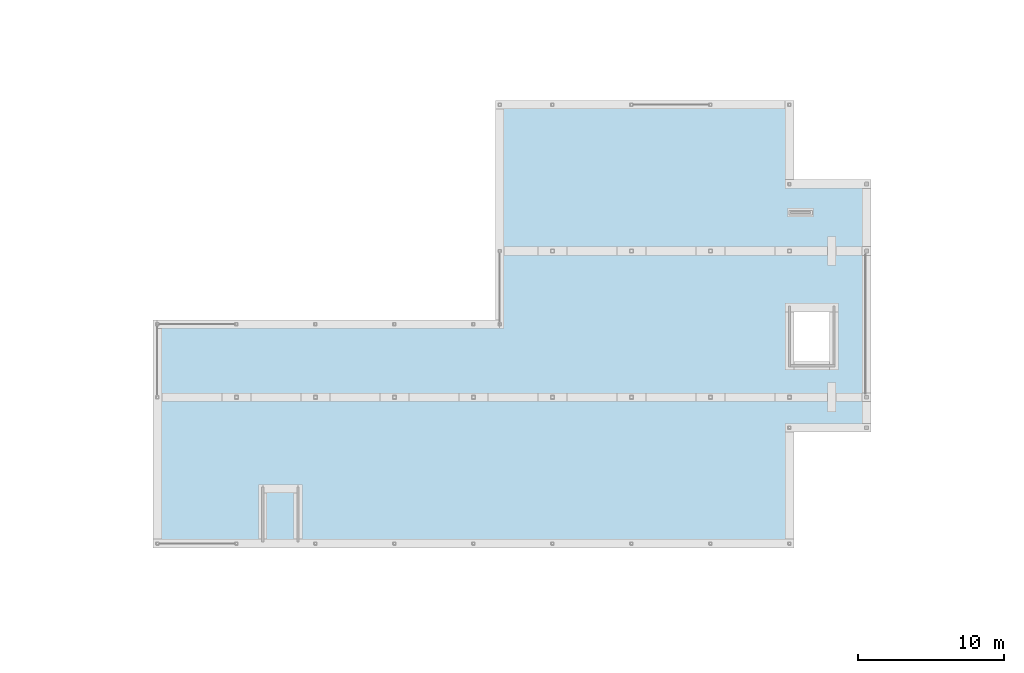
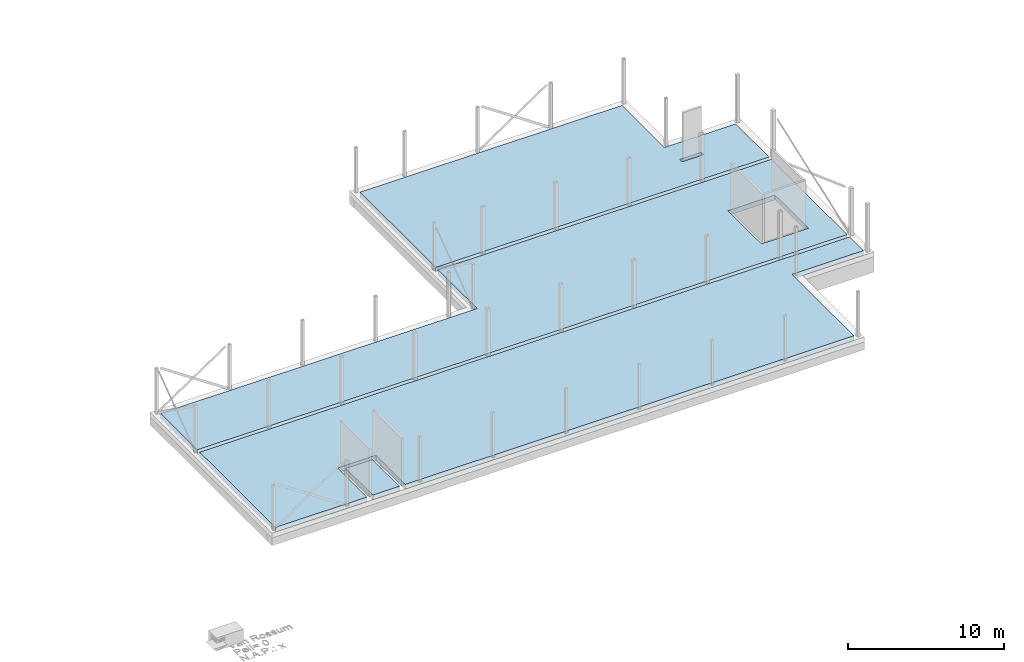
# One storey, part 8 of 12: 1 slab, 14 openings.
"""IFC2X3 building model written with IfcOpenShell, lengths in millimetres."""

from ifc_helpers import new_model, entity, si_unit, converted_unit, derived_unit, direction, frame, frame_2d, origin, place, context, subcontext, project, spatial, polyline, circle_curve, parameter, trimmed, segment, composite_curve, rectangle, outline, extrude, material, layer, layer_set, layer_usage, type_object, element, save


model = new_model("IFC2X3")

# Units and contexts
model_context = context("Model", 3, precision=0.01, world=origin(), true_north=direction((6.123031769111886e-17, 1.0)))
body_context = subcontext(model_context, "Body", "Model", "MODEL_VIEW")
ifc_project = project(units=[si_unit("LENGTHUNIT", "METRE", prefix="MILLI"), si_unit("AREAUNIT", "SQUARE_METRE"), si_unit("VOLUMEUNIT", "CUBIC_METRE"), converted_unit("PLANEANGLEUNIT", "DEGREE", entity("IfcPlaneAngleMeasure", 0.017453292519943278), si_unit("PLANEANGLEUNIT", "RADIAN"), dimensions=[0, 0, 0, 0, 0, 0, 0]), si_unit("MASSUNIT", "GRAM", prefix="KILO"), derived_unit("MASSDENSITYUNIT", [(si_unit("MASSUNIT", "GRAM", prefix="KILO"), 1), (si_unit("LENGTHUNIT", "METRE"), -3)]), derived_unit("IONCONCENTRATIONUNIT", [(si_unit("MASSUNIT", "GRAM", prefix="KILO"), 1), (si_unit("LENGTHUNIT", "METRE"), -3)]), derived_unit("MOMENTOFINERTIAUNIT", [(si_unit("LENGTHUNIT", "METRE"), 4)]), si_unit("TIMEUNIT", "SECOND"), si_unit("FREQUENCYUNIT", "HERTZ"), si_unit("THERMODYNAMICTEMPERATUREUNIT", "DEGREE_CELSIUS"), derived_unit("THERMALTRANSMITTANCEUNIT", [(si_unit("MASSUNIT", "GRAM", prefix="KILO"), 1), (si_unit("THERMODYNAMICTEMPERATUREUNIT", "KELVIN"), -1), (si_unit("TIMEUNIT", "SECOND"), -3)]), derived_unit("THERMALCONDUCTANCEUNIT", [(si_unit("MASSUNIT", "GRAM", prefix="KILO"), 1), (si_unit("THERMODYNAMICTEMPERATUREUNIT", "KELVIN"), -1), (si_unit("TIMEUNIT", "SECOND"), -3), (si_unit("LENGTHUNIT", "METRE"), 1)]), derived_unit("VOLUMETRICFLOWRATEUNIT", [(si_unit("LENGTHUNIT", "METRE", prefix="DECI"), 3), (si_unit("TIMEUNIT", "SECOND"), -1)]), derived_unit("MASSFLOWRATEUNIT", [(si_unit("MASSUNIT", "GRAM", prefix="KILO"), 1), (si_unit("TIMEUNIT", "SECOND"), -1)]), derived_unit("ROTATIONALFREQUENCYUNIT", [(si_unit("TIMEUNIT", "SECOND"), -1)]), si_unit("ELECTRICCURRENTUNIT", "AMPERE"), si_unit("ELECTRICVOLTAGEUNIT", "VOLT"), si_unit("POWERUNIT", "WATT"), si_unit("FORCEUNIT", "NEWTON", prefix="KILO"), si_unit("ILLUMINANCEUNIT", "LUX"), si_unit("LUMINOUSFLUXUNIT", "LUMEN"), si_unit("LUMINOUSINTENSITYUNIT", "CANDELA"), si_unit("ENERGYUNIT", "JOULE"), derived_unit("USERDEFINED", [(si_unit("MASSUNIT", "GRAM", prefix="KILO"), -1), (si_unit("LENGTHUNIT", "METRE"), -2), (si_unit("TIMEUNIT", "SECOND"), 3), (si_unit("LUMINOUSFLUXUNIT", "LUMEN"), 1)]), derived_unit("USERDEFINED", [(si_unit("MASSUNIT", "GRAM", prefix="KILO"), 1), (si_unit("TIMEUNIT", "SECOND"), -3), (si_unit("LENGTHUNIT", "METRE"), 3), (si_unit("ELECTRICCURRENTUNIT", "AMPERE"), -2)]), derived_unit("SOUNDPOWERUNIT", [(si_unit("MASSUNIT", "GRAM", prefix="KILO"), 1), (si_unit("TIMEUNIT", "SECOND"), -3), (si_unit("LENGTHUNIT", "METRE"), 2)]), derived_unit("SOUNDPRESSUREUNIT", [(si_unit("MASSUNIT", "GRAM", prefix="KILO"), 1), (si_unit("LENGTHUNIT", "METRE"), -1), (si_unit("TIMEUNIT", "SECOND"), -2)]), derived_unit("LINEARVELOCITYUNIT", [(si_unit("LENGTHUNIT", "METRE"), 1), (si_unit("TIMEUNIT", "SECOND"), -1)]), si_unit("PRESSUREUNIT", "PASCAL"), derived_unit("USERDEFINED", [(si_unit("MASSUNIT", "GRAM", prefix="KILO"), 1), (si_unit("LENGTHUNIT", "METRE"), -2), (si_unit("TIMEUNIT", "SECOND"), -2)]), derived_unit("LINEARFORCEUNIT", [(si_unit("MASSUNIT", "GRAM", prefix="KILO"), 1), (si_unit("TIMEUNIT", "SECOND"), -2)]), derived_unit("PLANARFORCEUNIT", [(si_unit("MASSUNIT", "GRAM", prefix="KILO"), 1), (si_unit("LENGTHUNIT", "METRE"), -1), (si_unit("TIMEUNIT", "SECOND"), -2)]), derived_unit("SPECIFICHEATCAPACITYUNIT", [(si_unit("THERMODYNAMICTEMPERATUREUNIT", "KELVIN"), -1), (si_unit("LENGTHUNIT", "METRE"), 2), (si_unit("TIMEUNIT", "SECOND"), -2)]), derived_unit("HEATFLUXDENSITYUNIT", [(si_unit("MASSUNIT", "GRAM", prefix="KILO"), 1), (si_unit("TIMEUNIT", "SECOND"), -3)]), derived_unit("HEATINGVALUEUNIT", [(si_unit("LENGTHUNIT", "METRE"), 2), (si_unit("TIMEUNIT", "SECOND"), -2)]), derived_unit("VAPORPERMEABILITYUNIT", [(si_unit("LENGTHUNIT", "METRE"), -1), (si_unit("TIMEUNIT", "SECOND"), 1)]), derived_unit("DYNAMICVISCOSITYUNIT", [(si_unit("MASSUNIT", "GRAM", prefix="KILO"), 1), (si_unit("TIMEUNIT", "SECOND"), -1), (si_unit("LENGTHUNIT", "METRE"), -1)]), derived_unit("THERMALEXPANSIONCOEFFICIENTUNIT", [(si_unit("THERMODYNAMICTEMPERATUREUNIT", "KELVIN"), -1)]), derived_unit("MODULUSOFELASTICITYUNIT", [(si_unit("MASSUNIT", "GRAM", prefix="KILO"), 1), (si_unit("LENGTHUNIT", "METRE"), -1), (si_unit("TIMEUNIT", "SECOND"), -2)]), derived_unit("ISOTHERMALMOISTURECAPACITYUNIT", [(si_unit("MASSUNIT", "GRAM", prefix="KILO"), -1), (si_unit("LENGTHUNIT", "METRE"), 3)]), derived_unit("MOISTUREDIFFUSIVITYUNIT", [(si_unit("TIMEUNIT", "SECOND"), -1), (si_unit("LENGTHUNIT", "METRE"), 2)]), derived_unit("MASSPERLENGTHUNIT", [(si_unit("MASSUNIT", "GRAM", prefix="KILO"), 1), (si_unit("LENGTHUNIT", "METRE"), -1)]), derived_unit("THERMALRESISTANCEUNIT", [(si_unit("MASSUNIT", "GRAM", prefix="KILO"), -1), (si_unit("TIMEUNIT", "SECOND"), 3), (si_unit("THERMODYNAMICTEMPERATUREUNIT", "KELVIN"), 1)]), derived_unit("ACCELERATIONUNIT", [(si_unit("LENGTHUNIT", "METRE"), 1), (si_unit("TIMEUNIT", "SECOND"), -2)]), derived_unit("ANGULARVELOCITYUNIT", [(si_unit("TIMEUNIT", "SECOND"), -1), (si_unit("PLANEANGLEUNIT", "RADIAN"), 1)]), derived_unit("LINEARSTIFFNESSUNIT", [(si_unit("MASSUNIT", "GRAM", prefix="KILO"), 1), (si_unit("TIMEUNIT", "SECOND"), -2)]), derived_unit("WARPINGCONSTANTUNIT", [(si_unit("LENGTHUNIT", "METRE"), 6)]), derived_unit("LINEARMOMENTUNIT", [(si_unit("MASSUNIT", "GRAM", prefix="KILO"), 1), (si_unit("LENGTHUNIT", "METRE"), 1), (si_unit("TIMEUNIT", "SECOND"), -2)]), derived_unit("TORQUEUNIT", [(si_unit("MASSUNIT", "GRAM", prefix="KILO"), 1), (si_unit("LENGTHUNIT", "METRE"), 2), (si_unit("TIMEUNIT", "SECOND"), -2)])], contexts=[model_context])

# Site, building, storey
site_placement = place(None, origin())
site = spatial("IfcSite", under=ifc_project, at=site_placement, Name="Default", CompositionType="ELEMENT")
building_placement = place(site_placement, origin())
building = spatial("IfcBuilding", under=site, at=building_placement, CompositionType="ELEMENT")
storey_placement = place(building_placement, origin())
storey = spatial("IfcBuildingStorey", under=building, at=storey_placement, Name="00 begane grond", CompositionType="ELEMENT", Elevation=0.0)

# Slab, openings
ifc_material_1 = material(Name="VRI_beton_kanaalplaat")
ifc_layer_1 = layer(ifc_material_1, 260.0)
ifc_material_2 = material(Name="VRI_isolatie")
ifc_layer_2 = layer(ifc_material_2, 120.0)
ifc_layer_set = layer_set([ifc_layer_1, ifc_layer_2], Name="Floor:23_FL_VRI_geïsoleerde_kanaalplaatvloer_260_Rc=....")
ifc_layer_usage = layer_usage(ifc_layer_set, "AXIS3", "POSITIVE", 0.0)
slab_type = type_object("IfcSlabType", Name="Floor:23_FL_VRI_geïsoleerde_kanaalplaatvloer_260_Rc=....", PredefinedType="FLOOR", material=ifc_layer_set)
slab_placement = place(storey_placement, origin())
slab = element("IfcSlab", 1, at=slab_placement, inside=storey, type_object=slab_type, material=ifc_layer_usage, Name="Floor:23_FL_VRI_geïsoleerde_kanaalplaatvloer_260_Rc=....", ObjectType="Floor:23_FL_VRI_geïsoleerde_kanaalplaatvloer_260_Rc=....", PredefinedType="FLOOR", context=body_context, shape_type="SweptSolid", body=[
    extrude(outline(polyline([(100.0, -23815.0), (4800.0, -23815.0), (4800.0, 24230.0), (-4900.0, 24230.0), (-4900.0, -415.0), (100.0, -415.0), (100.0, -23815.0)]), holes=[polyline([(2947.0, 22435.0), (2947.0, 18955.0), (-1330.0, 18955.0), (-1330.0, 22435.0), (2947.0, 22435.0)])]), frame((34030.0, 24950.0, -460.0), z_axis=(0.0, 0.0, 1.0), x_axis=(0.0, -1.0, 0.0)), (0.0, 0.0, 1.0), 379.99999999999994),
    extrude(rectangle(XDim=3676.9999999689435, YDim=2619.999999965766, at=frame_2d((-2.1600499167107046e-12, 4.320099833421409e-12), x_axis=(1.0, 0.0))), frame((54725.0, 24141.500000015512, -460.0), z_axis=(0.0, 0.0, 1.0), x_axis=(0.0, 1.0, 0.0)), (0.0, 0.0, 1.0), 379.99999999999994),
    extrude(outline(polyline([(-14671.666666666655, -4658.333333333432), (9973.333333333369, -4658.333333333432), (9973.333333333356, -383.33333333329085), (4698.33333333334, -383.33333333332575), (4698.333333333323, 5041.666666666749), (-14671.666666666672, 5041.666666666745), (-14671.666666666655, -4658.333333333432)]), holes=[polyline([(6483.333333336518, -2033.3333333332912), (6483.333333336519, -2333.3333333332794), (4873.333333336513, -2333.333333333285), (4873.333333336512, -2033.3333333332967), (6483.333333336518, -2033.3333333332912)])]), frame((48286.66666666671, 34808.33333333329, -460.0)), (0.0, 0.0, 1.0), 379.99999999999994),
    extrude(outline(polyline([(-4275.599999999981, 21333.0), (-4275.599999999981, -11837.0), (-522.600000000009, -11837.0), (-522.600000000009, -14667.0), (-4275.599999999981, -14667.0), (-4275.599999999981, -21437.0), (5424.400000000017, -21437.0), (5424.3999999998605, 26608.0), (3649.4000000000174, 26608.0), (3649.4000000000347, 21333.0), (-4275.599999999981, 21333.0)])), frame((31652.0, 14425.599999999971, -460.0), z_axis=(0.0, 0.0, -1.0), x_axis=(0.0, 1.0, 0.0)), (0.0, 0.0, -1.0), 379.99999999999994),
    extrude(rectangle(XDim=3452.999999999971, YDim=1969.9999999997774, at=frame_2d((-1.1368683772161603e-12, 0.0), x_axis=(1.0, 0.0))), frame((18400.0, 11876.499999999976, -460.0), z_axis=(0.0, 0.0, 1.0), x_axis=(0.0, 1.0, 0.0)), (0.0, 0.0, 1.0), 379.99999999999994),
])
opening_1_placement = place(slab_placement, origin())
element("IfcOpeningElement", 2, at=opening_1_placement, cuts=slab, Name="Floor:23_FL_VRI_geïsoleerde_kanaalplaatvloer_260_Rc=....", ObjectType="Opening", context=body_context, shape_type="SweptSolid", body=[
    extrude(outline(composite_curve([segment(polyline([(-113.0, -125.0), (113.0, -125.0)]), True, "CONTINUOUS"), segment(trimmed(circle_curve(frame_2d((113.0, -113.0), x_axis=(0.0, -1.0)), 12.0), [parameter(359.9999999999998)], [parameter(89.99999999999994)], True, "PARAMETER"), True, "CONTINUOUS"), segment(polyline([(125.0, -113.0), (125.0, 113.0)]), True, "CONTINUOUS"), segment(trimmed(circle_curve(frame_2d((113.0, 113.0), x_axis=(0.0, -1.0)), 12.0), [parameter(90.00000000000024)], [parameter(180.00000000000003)], True, "PARAMETER"), True, "CONTINUOUS"), segment(polyline([(113.0, 125.0), (-113.0, 125.0)]), True, "CONTINUOUS"), segment(trimmed(circle_curve(frame_2d((-113.0, 113.0), x_axis=(0.0, -1.0)), 12.0), [parameter(179.99999999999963)], [parameter(269.9999999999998)], True, "PARAMETER"), True, "CONTINUOUS"), segment(polyline([(-125.0, 113.0), (-125.0, -113.0)]), True, "CONTINUOUS"), segment(trimmed(circle_curve(frame_2d((-113.0, -113.0), x_axis=(0.0, -1.0)), 12.0), [parameter(270.00000000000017)], [parameter(1.0177774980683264e-13)], True, "PARAMETER"), True, "CONTINUOUS")], self_intersect=False)), frame((15400.0, 20000.0, -80.0), z_axis=(0.0, 0.0, 1.0), x_axis=(0.0, 1.0, 0.0)), (0.0, 0.0, 1.0), 3715.0),
])
opening_2_placement = place(slab_placement, origin())
element("IfcOpeningElement", 3, at=opening_2_placement, cuts=slab, Name="Floor:23_FL_VRI_geïsoleerde_kanaalplaatvloer_260_Rc=....", ObjectType="Opening", context=body_context, shape_type="SweptSolid", body=[
    extrude(outline(composite_curve([segment(polyline([(-113.0, -125.0), (113.0, -125.0)]), True, "CONTINUOUS"), segment(trimmed(circle_curve(frame_2d((113.0, -113.0), x_axis=(0.0, -1.0)), 12.0), [parameter(359.9999999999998)], [parameter(89.99999999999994)], True, "PARAMETER"), True, "CONTINUOUS"), segment(polyline([(125.0, -113.0), (125.0, 113.0)]), True, "CONTINUOUS"), segment(trimmed(circle_curve(frame_2d((113.0, 113.0), x_axis=(0.0, -1.0)), 12.0), [parameter(90.00000000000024)], [parameter(180.00000000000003)], True, "PARAMETER"), True, "CONTINUOUS"), segment(polyline([(113.0, 125.0), (-113.0, 125.0)]), True, "CONTINUOUS"), segment(trimmed(circle_curve(frame_2d((-113.0, 113.0), x_axis=(0.0, -1.0)), 12.0), [parameter(179.99999999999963)], [parameter(269.9999999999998)], True, "PARAMETER"), True, "CONTINUOUS"), segment(polyline([(-125.0, 113.0), (-125.0, -113.0)]), True, "CONTINUOUS"), segment(trimmed(circle_curve(frame_2d((-113.0, -113.0), x_axis=(0.0, -1.0)), 12.0), [parameter(270.00000000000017)], [parameter(1.0177774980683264e-13)], True, "PARAMETER"), True, "CONTINUOUS")], self_intersect=False)), frame((20800.0, 20000.0, -80.0), z_axis=(0.0, 0.0, 1.0), x_axis=(0.0, 1.0, 0.0)), (0.0, 0.0, 1.0), 3715.0),
])
opening_3_placement = place(slab_placement, origin())
element("IfcOpeningElement", 4, at=opening_3_placement, cuts=slab, Name="Floor:23_FL_VRI_geïsoleerde_kanaalplaatvloer_260_Rc=....", ObjectType="Opening", context=body_context, shape_type="SweptSolid", body=[
    extrude(outline(composite_curve([segment(polyline([(-113.0, -125.0), (113.0, -125.0)]), True, "CONTINUOUS"), segment(trimmed(circle_curve(frame_2d((113.0, -113.0), x_axis=(0.0, -1.0)), 12.0), [parameter(359.9999999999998)], [parameter(89.99999999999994)], True, "PARAMETER"), True, "CONTINUOUS"), segment(polyline([(125.0, -113.0), (125.0, 113.0)]), True, "CONTINUOUS"), segment(trimmed(circle_curve(frame_2d((113.0, 113.0), x_axis=(0.0, -1.0)), 12.0), [parameter(90.00000000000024)], [parameter(180.00000000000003)], True, "PARAMETER"), True, "CONTINUOUS"), segment(polyline([(113.0, 125.0), (-113.0, 125.0)]), True, "CONTINUOUS"), segment(trimmed(circle_curve(frame_2d((-113.0, 113.0), x_axis=(0.0, -1.0)), 12.0), [parameter(179.99999999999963)], [parameter(269.9999999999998)], True, "PARAMETER"), True, "CONTINUOUS"), segment(polyline([(-125.0, 113.0), (-125.0, -113.0)]), True, "CONTINUOUS"), segment(trimmed(circle_curve(frame_2d((-113.0, -113.0), x_axis=(0.0, -1.0)), 12.0), [parameter(270.00000000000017)], [parameter(1.0177774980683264e-13)], True, "PARAMETER"), True, "CONTINUOUS")], self_intersect=False)), frame((26200.0, 20000.0, -80.0), z_axis=(0.0, 0.0, 1.0), x_axis=(0.0, 1.0, 0.0)), (0.0, 0.0, 1.0), 3715.0),
])
opening_4_placement = place(slab_placement, origin())
element("IfcOpeningElement", 5, at=opening_4_placement, cuts=slab, Name="Floor:23_FL_VRI_geïsoleerde_kanaalplaatvloer_260_Rc=....", ObjectType="Opening", context=body_context, shape_type="SweptSolid", body=[
    extrude(outline(composite_curve([segment(polyline([(-113.0, -125.0), (113.0, -125.0)]), True, "CONTINUOUS"), segment(trimmed(circle_curve(frame_2d((113.0, -113.0), x_axis=(0.0, -1.0)), 12.0), [parameter(359.9999999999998)], [parameter(89.99999999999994)], True, "PARAMETER"), True, "CONTINUOUS"), segment(polyline([(125.0, -113.0), (125.0, 113.0)]), True, "CONTINUOUS"), segment(trimmed(circle_curve(frame_2d((113.0, 113.0), x_axis=(0.0, -1.0)), 12.0), [parameter(90.00000000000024)], [parameter(180.00000000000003)], True, "PARAMETER"), True, "CONTINUOUS"), segment(polyline([(113.0, 125.0), (-113.0, 125.0)]), True, "CONTINUOUS"), segment(trimmed(circle_curve(frame_2d((-113.0, 113.0), x_axis=(0.0, -1.0)), 12.0), [parameter(179.99999999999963)], [parameter(269.9999999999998)], True, "PARAMETER"), True, "CONTINUOUS"), segment(polyline([(-125.0, 113.0), (-125.0, -113.0)]), True, "CONTINUOUS"), segment(trimmed(circle_curve(frame_2d((-113.0, -113.0), x_axis=(0.0, -1.0)), 12.0), [parameter(270.00000000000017)], [parameter(1.0177774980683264e-13)], True, "PARAMETER"), True, "CONTINUOUS")], self_intersect=False)), frame((31600.0, 20000.0, -80.0), z_axis=(0.0, 0.0, 1.0), x_axis=(0.0, 1.0, 0.0)), (0.0, 0.0, 1.0), 3715.0),
])
opening_5_placement = place(slab_placement, origin())
element("IfcOpeningElement", 6, at=opening_5_placement, cuts=slab, Name="Floor:23_FL_VRI_geïsoleerde_kanaalplaatvloer_260_Rc=....", ObjectType="Opening", context=body_context, shape_type="SweptSolid", body=[
    extrude(outline(composite_curve([segment(polyline([(-113.0, -125.0), (113.0, -125.0)]), True, "CONTINUOUS"), segment(trimmed(circle_curve(frame_2d((113.0, -113.0), x_axis=(0.0, -1.0)), 12.0), [parameter(359.9999999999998)], [parameter(89.99999999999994)], True, "PARAMETER"), True, "CONTINUOUS"), segment(polyline([(125.0, -113.0), (125.0, 113.0)]), True, "CONTINUOUS"), segment(trimmed(circle_curve(frame_2d((113.0, 113.0), x_axis=(0.0, -1.0)), 12.0), [parameter(90.00000000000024)], [parameter(180.00000000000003)], True, "PARAMETER"), True, "CONTINUOUS"), segment(polyline([(113.0, 125.0), (-113.0, 125.0)]), True, "CONTINUOUS"), segment(trimmed(circle_curve(frame_2d((-113.0, 113.0), x_axis=(0.0, -1.0)), 12.0), [parameter(179.99999999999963)], [parameter(269.9999999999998)], True, "PARAMETER"), True, "CONTINUOUS"), segment(polyline([(-125.0, 113.0), (-125.0, -113.0)]), True, "CONTINUOUS"), segment(trimmed(circle_curve(frame_2d((-113.0, -113.0), x_axis=(0.0, -1.0)), 12.0), [parameter(270.00000000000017)], [parameter(1.0177774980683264e-13)], True, "PARAMETER"), True, "CONTINUOUS")], self_intersect=False)), frame((37000.0, 20000.0, -80.0), z_axis=(0.0, 0.0, 1.0), x_axis=(0.0, 1.0, 0.0)), (0.0, 0.0, 1.0), 3715.0),
])
opening_6_placement = place(slab_placement, origin())
element("IfcOpeningElement", 7, at=opening_6_placement, cuts=slab, Name="Floor:23_FL_VRI_geïsoleerde_kanaalplaatvloer_260_Rc=....", ObjectType="Opening", context=body_context, shape_type="SweptSolid", body=[
    extrude(outline(composite_curve([segment(polyline([(-113.0, -125.0), (113.0, -125.0)]), True, "CONTINUOUS"), segment(trimmed(circle_curve(frame_2d((113.0, -113.0), x_axis=(0.0, -1.0)), 12.0), [parameter(359.9999999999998)], [parameter(89.99999999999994)], True, "PARAMETER"), True, "CONTINUOUS"), segment(polyline([(125.0, -113.0), (125.0, 113.0)]), True, "CONTINUOUS"), segment(trimmed(circle_curve(frame_2d((113.0, 113.0), x_axis=(0.0, -1.0)), 12.0), [parameter(90.00000000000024)], [parameter(180.00000000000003)], True, "PARAMETER"), True, "CONTINUOUS"), segment(polyline([(113.0, 125.0), (-113.0, 125.0)]), True, "CONTINUOUS"), segment(trimmed(circle_curve(frame_2d((-113.0, 113.0), x_axis=(0.0, -1.0)), 12.0), [parameter(179.99999999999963)], [parameter(269.9999999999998)], True, "PARAMETER"), True, "CONTINUOUS"), segment(polyline([(-125.0, 113.0), (-125.0, -113.0)]), True, "CONTINUOUS"), segment(trimmed(circle_curve(frame_2d((-113.0, -113.0), x_axis=(0.0, -1.0)), 12.0), [parameter(270.00000000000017)], [parameter(1.0177774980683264e-13)], True, "PARAMETER"), True, "CONTINUOUS")], self_intersect=False)), frame((42400.0, 20000.0, -80.0), z_axis=(0.0, 0.0, 1.0), x_axis=(0.0, 1.0, 0.0)), (0.0, 0.0, 1.0), 3715.0),
])
opening_7_placement = place(slab_placement, origin())
element("IfcOpeningElement", 8, at=opening_7_placement, cuts=slab, Name="Floor:23_FL_VRI_geïsoleerde_kanaalplaatvloer_260_Rc=....", ObjectType="Opening", context=body_context, shape_type="SweptSolid", body=[
    extrude(outline(composite_curve([segment(polyline([(-113.0, -125.0), (113.0, -125.0)]), True, "CONTINUOUS"), segment(trimmed(circle_curve(frame_2d((113.0, -113.0), x_axis=(0.0, -1.0)), 12.0), [parameter(359.9999999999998)], [parameter(89.99999999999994)], True, "PARAMETER"), True, "CONTINUOUS"), segment(polyline([(125.0, -113.0), (125.0, 113.0)]), True, "CONTINUOUS"), segment(trimmed(circle_curve(frame_2d((113.0, 113.0), x_axis=(0.0, -1.0)), 12.0), [parameter(90.00000000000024)], [parameter(180.00000000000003)], True, "PARAMETER"), True, "CONTINUOUS"), segment(polyline([(113.0, 125.0), (-113.0, 125.0)]), True, "CONTINUOUS"), segment(trimmed(circle_curve(frame_2d((-113.0, 113.0), x_axis=(0.0, -1.0)), 12.0), [parameter(179.99999999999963)], [parameter(269.9999999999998)], True, "PARAMETER"), True, "CONTINUOUS"), segment(polyline([(-125.0, 113.0), (-125.0, -113.0)]), True, "CONTINUOUS"), segment(trimmed(circle_curve(frame_2d((-113.0, -113.0), x_axis=(0.0, -1.0)), 12.0), [parameter(270.00000000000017)], [parameter(1.0177774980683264e-13)], True, "PARAMETER"), True, "CONTINUOUS")], self_intersect=False)), frame((47800.0, 20000.0, -80.0), z_axis=(0.0, 0.0, 1.0), x_axis=(0.0, 1.0, 0.0)), (0.0, 0.0, 1.0), 3715.0),
])
opening_8_placement = place(slab_placement, origin())
element("IfcOpeningElement", 9, at=opening_8_placement, cuts=slab, Name="Floor:23_FL_VRI_geïsoleerde_kanaalplaatvloer_260_Rc=....", ObjectType="Opening", context=body_context, shape_type="SweptSolid", body=[
    extrude(outline(composite_curve([segment(polyline([(-113.0, -125.0), (113.0, -125.0)]), True, "CONTINUOUS"), segment(trimmed(circle_curve(frame_2d((113.0, -113.0), x_axis=(0.0, -1.0)), 12.0), [parameter(359.9999999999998)], [parameter(89.99999999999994)], True, "PARAMETER"), True, "CONTINUOUS"), segment(polyline([(125.0, -113.0), (125.0, 113.0)]), True, "CONTINUOUS"), segment(trimmed(circle_curve(frame_2d((113.0, 113.0), x_axis=(0.0, -1.0)), 12.0), [parameter(90.00000000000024)], [parameter(180.00000000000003)], True, "PARAMETER"), True, "CONTINUOUS"), segment(polyline([(113.0, 125.0), (-113.0, 125.0)]), True, "CONTINUOUS"), segment(trimmed(circle_curve(frame_2d((-113.0, 113.0), x_axis=(0.0, -1.0)), 12.0), [parameter(179.99999999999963)], [parameter(269.9999999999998)], True, "PARAMETER"), True, "CONTINUOUS"), segment(polyline([(-125.0, 113.0), (-125.0, -113.0)]), True, "CONTINUOUS"), segment(trimmed(circle_curve(frame_2d((-113.0, -113.0), x_axis=(0.0, -1.0)), 12.0), [parameter(270.00000000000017)], [parameter(1.0177774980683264e-13)], True, "PARAMETER"), True, "CONTINUOUS")], self_intersect=False)), frame((53200.0, 20000.0, -80.0), z_axis=(0.0, 0.0, 1.0), x_axis=(0.0, 1.0, 0.0)), (0.0, 0.0, 1.0), 3715.0),
])
opening_9_placement = place(slab_placement, origin())
element("IfcOpeningElement", 10, at=opening_9_placement, cuts=slab, Name="Floor:23_FL_VRI_geïsoleerde_kanaalplaatvloer_260_Rc=....", ObjectType="Opening", context=body_context, shape_type="SweptSolid", body=[
    extrude(outline(composite_curve([segment(polyline([(-113.0, -125.0), (113.0, -125.0)]), True, "CONTINUOUS"), segment(trimmed(circle_curve(frame_2d((113.0, -113.0), x_axis=(0.0, -1.0)), 12.0), [parameter(359.9999999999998)], [parameter(89.99999999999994)], True, "PARAMETER"), True, "CONTINUOUS"), segment(polyline([(125.0, -113.0), (125.0, 113.0)]), True, "CONTINUOUS"), segment(trimmed(circle_curve(frame_2d((113.0, 113.0), x_axis=(0.0, -1.0)), 12.0), [parameter(90.00000000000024)], [parameter(180.00000000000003)], True, "PARAMETER"), True, "CONTINUOUS"), segment(polyline([(113.0, 125.0), (-113.0, 125.0)]), True, "CONTINUOUS"), segment(trimmed(circle_curve(frame_2d((-113.0, 113.0), x_axis=(0.0, -1.0)), 12.0), [parameter(179.99999999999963)], [parameter(269.9999999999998)], True, "PARAMETER"), True, "CONTINUOUS"), segment(polyline([(-125.0, 113.0), (-125.0, -113.0)]), True, "CONTINUOUS"), segment(trimmed(circle_curve(frame_2d((-113.0, -113.0), x_axis=(0.0, -1.0)), 12.0), [parameter(270.00000000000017)], [parameter(1.0177774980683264e-13)], True, "PARAMETER"), True, "CONTINUOUS")], self_intersect=False)), frame((53200.0, 30000.0, -80.0), z_axis=(0.0, 0.0, 1.0), x_axis=(0.0, 1.0, 0.0)), (0.0, 0.0, 1.0), 3715.0),
])
opening_10_placement = place(slab_placement, origin())
element("IfcOpeningElement", 11, at=opening_10_placement, cuts=slab, Name="Floor:23_FL_VRI_geïsoleerde_kanaalplaatvloer_260_Rc=....", ObjectType="Opening", context=body_context, shape_type="SweptSolid", body=[
    extrude(outline(composite_curve([segment(polyline([(-113.0, -125.0), (113.0, -125.0)]), True, "CONTINUOUS"), segment(trimmed(circle_curve(frame_2d((113.0, -113.0), x_axis=(0.0, -1.0)), 12.0), [parameter(359.9999999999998)], [parameter(89.99999999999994)], True, "PARAMETER"), True, "CONTINUOUS"), segment(polyline([(125.0, -113.0), (125.0, 113.0)]), True, "CONTINUOUS"), segment(trimmed(circle_curve(frame_2d((113.0, 113.0), x_axis=(0.0, -1.0)), 12.0), [parameter(90.00000000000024)], [parameter(180.00000000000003)], True, "PARAMETER"), True, "CONTINUOUS"), segment(polyline([(113.0, 125.0), (-113.0, 125.0)]), True, "CONTINUOUS"), segment(trimmed(circle_curve(frame_2d((-113.0, 113.0), x_axis=(0.0, -1.0)), 12.0), [parameter(179.99999999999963)], [parameter(269.9999999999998)], True, "PARAMETER"), True, "CONTINUOUS"), segment(polyline([(-125.0, 113.0), (-125.0, -113.0)]), True, "CONTINUOUS"), segment(trimmed(circle_curve(frame_2d((-113.0, -113.0), x_axis=(0.0, -1.0)), 12.0), [parameter(270.00000000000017)], [parameter(1.0177774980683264e-13)], True, "PARAMETER"), True, "CONTINUOUS")], self_intersect=False)), frame((47800.0, 30000.0, -80.0), z_axis=(0.0, 0.0, 1.0), x_axis=(0.0, 1.0, 0.0)), (0.0, 0.0, 1.0), 3715.0),
])
opening_11_placement = place(slab_placement, origin())
element("IfcOpeningElement", 12, at=opening_11_placement, cuts=slab, Name="Floor:23_FL_VRI_geïsoleerde_kanaalplaatvloer_260_Rc=....", ObjectType="Opening", context=body_context, shape_type="SweptSolid", body=[
    extrude(outline(composite_curve([segment(polyline([(-113.0, -125.0), (113.0, -125.0)]), True, "CONTINUOUS"), segment(trimmed(circle_curve(frame_2d((113.0, -113.0), x_axis=(0.0, -1.0)), 12.0), [parameter(359.9999999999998)], [parameter(89.99999999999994)], True, "PARAMETER"), True, "CONTINUOUS"), segment(polyline([(125.0, -113.0), (125.0, 113.0)]), True, "CONTINUOUS"), segment(trimmed(circle_curve(frame_2d((113.0, 113.0), x_axis=(0.0, -1.0)), 12.0), [parameter(90.00000000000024)], [parameter(180.00000000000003)], True, "PARAMETER"), True, "CONTINUOUS"), segment(polyline([(113.0, 125.0), (-113.0, 125.0)]), True, "CONTINUOUS"), segment(trimmed(circle_curve(frame_2d((-113.0, 113.0), x_axis=(0.0, -1.0)), 12.0), [parameter(179.99999999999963)], [parameter(269.9999999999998)], True, "PARAMETER"), True, "CONTINUOUS"), segment(polyline([(-125.0, 113.0), (-125.0, -113.0)]), True, "CONTINUOUS"), segment(trimmed(circle_curve(frame_2d((-113.0, -113.0), x_axis=(0.0, -1.0)), 12.0), [parameter(270.00000000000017)], [parameter(1.0177774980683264e-13)], True, "PARAMETER"), True, "CONTINUOUS")], self_intersect=False)), frame((42400.0, 30000.0, -80.0), z_axis=(0.0, 0.0, 1.0), x_axis=(0.0, 1.0, 0.0)), (0.0, 0.0, 1.0), 3715.0),
])
opening_12_placement = place(slab_placement, origin())
element("IfcOpeningElement", 13, at=opening_12_placement, cuts=slab, Name="Floor:23_FL_VRI_geïsoleerde_kanaalplaatvloer_260_Rc=....", ObjectType="Opening", context=body_context, shape_type="SweptSolid", body=[
    extrude(outline(composite_curve([segment(polyline([(-113.0, -125.0), (113.0, -125.0)]), True, "CONTINUOUS"), segment(trimmed(circle_curve(frame_2d((113.0, -113.0), x_axis=(0.0, -1.0)), 12.0), [parameter(359.9999999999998)], [parameter(89.99999999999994)], True, "PARAMETER"), True, "CONTINUOUS"), segment(polyline([(125.0, -113.0), (125.0, 113.0)]), True, "CONTINUOUS"), segment(trimmed(circle_curve(frame_2d((113.0, 113.0), x_axis=(0.0, -1.0)), 12.0), [parameter(90.00000000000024)], [parameter(180.00000000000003)], True, "PARAMETER"), True, "CONTINUOUS"), segment(polyline([(113.0, 125.0), (-113.0, 125.0)]), True, "CONTINUOUS"), segment(trimmed(circle_curve(frame_2d((-113.0, 113.0), x_axis=(0.0, -1.0)), 12.0), [parameter(179.99999999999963)], [parameter(269.9999999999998)], True, "PARAMETER"), True, "CONTINUOUS"), segment(polyline([(-125.0, 113.0), (-125.0, -113.0)]), True, "CONTINUOUS"), segment(trimmed(circle_curve(frame_2d((-113.0, -113.0), x_axis=(0.0, -1.0)), 12.0), [parameter(270.00000000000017)], [parameter(1.0177774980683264e-13)], True, "PARAMETER"), True, "CONTINUOUS")], self_intersect=False)), frame((37000.0, 30000.0, -80.0), z_axis=(0.0, 0.0, 1.0), x_axis=(0.0, 1.0, 0.0)), (0.0, 0.0, 1.0), 3715.0),
])
opening_13_placement = place(slab_placement, origin())
element("IfcOpeningElement", 14, at=opening_13_placement, cuts=slab, Name="Floor:23_FL_VRI_geïsoleerde_kanaalplaatvloer_260_Rc=....", ObjectType="Opening", context=body_context, shape_type="SweptSolid", body=[
    extrude(rectangle(XDim=299.9999999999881, YDim=1610.0000000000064, at=frame_2d((2.1600499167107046e-12, -4.376943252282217e-12), x_axis=(1.0, 0.0))), frame((53965.0, 32625.0, -80.0), z_axis=(0.0, 0.0, 1.0), x_axis=(0.0, -1.0, 0.0)), (0.0, 0.0, -1.0), 1969.9999999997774),
])
opening_14_placement = place(slab_placement, origin())
element("IfcOpeningElement", 15, at=opening_14_placement, cuts=slab, Name="Floor:23_FL_VRI_geïsoleerde_kanaalplaatvloer_260_Rc=....", ObjectType="Opening", context=body_context, shape_type="SweptSolid", body=[
    extrude(rectangle(XDim=3479.9999999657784, YDim=4276.999999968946, at=frame_2d((4.320099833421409e-12, -2.0463630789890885e-12), x_axis=(1.0, 0.0))), frame((54725.0, 24141.500000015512, -80.0), z_axis=(0.0, 0.0, -1.0), x_axis=(-1.0, 0.0, 0.0)), (0.0, 0.0, 1.0), 1969.9999999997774),
])

save(model, "model.ifc")
